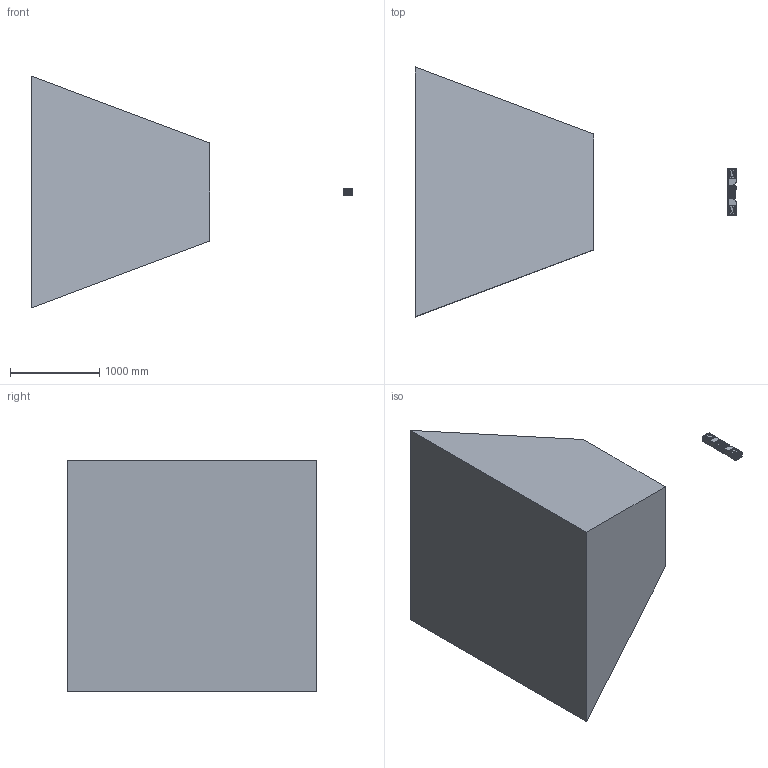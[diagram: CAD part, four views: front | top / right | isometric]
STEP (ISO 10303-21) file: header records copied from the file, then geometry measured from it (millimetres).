
FILE_DESCRIPTION((''),'2;1');
FILE_NAME('MV-DLS1300U-15_ASM','2025-04-22T20:20:24',('guodanfeng'),(''),'CREO PARAMETRIC BY PTC INC, 2020044','CREO PARAMETRIC BY PTC INC, 2020044','');
FILE_SCHEMA(('AUTOMOTIVE_DESIGN { 1 0 10303 214 1 1 1 1 }'));
Products named in the file (20): DE-16-000622-1; DE-13-001992_ASM; L102-M12-Z12A23C; L102-M12-Z08A11F; MV-23429_ASM; SC-HSCSM4X10NL-SUS; DE-19-009310; DE-14-060441; DE-14-060441-ASM_ASM; DE-14-060461; DF-14-000009; DE-14-060462; DE-18-000263; DE-17-003785; DE-14-064679; DE-18-000273; DE-18-000274; DE-13-002747; DE-13-002748_ASM; MV-DLS1300U-15_ASM
Assembly tree (37 placements, depth 3):
  MV-DLS1300U-15_ASM
    DE-16-000622-1
    DE-13-001992_ASM
    MV-23429_ASM
      L102-M12-Z12A23C
      L102-M12-Z08A11F
    SC-HSCSM4X10NL-SUS  x6
    DE-19-009310
    DE-14-060441-ASM_ASM  x2
      DE-14-060441
    DE-14-060461
    DF-14-000009  x12
    DE-14-060462
    DE-18-000263
    DE-17-003785  x2
    DE-14-064679
    DE-18-000273
    DE-18-000274
    DE-13-002748_ASM
      DE-13-002747
Bounding box: 3607.4 x 2800 x 2600 mm (x, y, z)
Volume: 3629119.7 mm3; surface area: 25819306.4 mm2
Topology: 58 solids, 127 shells, 4282 faces, 11301 edges, 7382 vertices
Faces by surface type: plane 2017, cylinder 1623, cone 306, bspline 209, torus 72, sphere 44, extrusion 11
Entity records: 129861 total; most frequent: CARTESIAN_POINT 37628, ORIENTED_EDGE 17370, DIRECTION 17050, EDGE_CURVE 8716, AXIS2_PLACEMENT_3D 6158, VERTEX_POINT 5775, VECTOR 4734, LINE 4723
